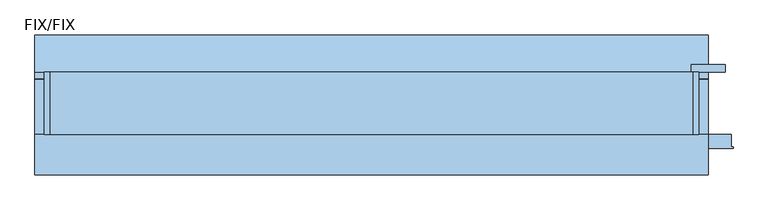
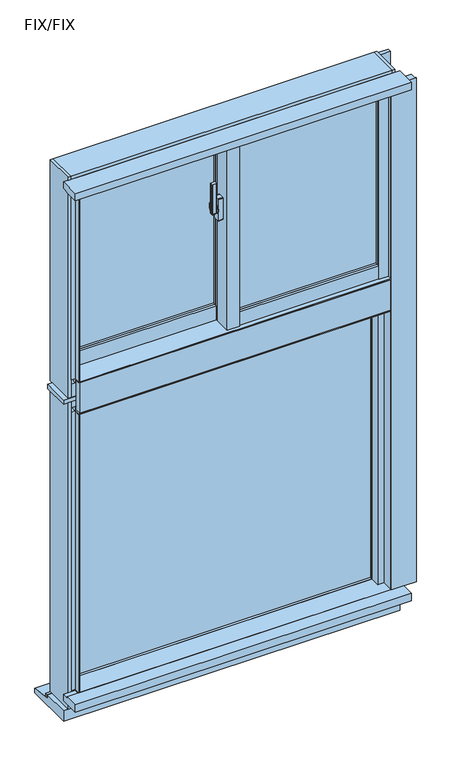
"""IFC4 building model written with IfcOpenShell, lengths in millimetres: window geometry, FNSⅡ100R_非防火_RC枠_段窓_分解無目 : FIX/FIX."""

import ifcopenshell
import ifcopenshell.guid

model = None  # the IFC model being written
_history = None  # IfcOwnerHistory: only IFC2X3 demands one
_inside = {}  # id of a spatial element -> (the spatial element, [elements in it])
_under = {}  # id of a project, library or spatial element -> (it, [spatial elements below it])
_declared = {}  # id of a project -> (the project, [libraries it declares])
_typed = {}  # id of a type object -> (the type object, [elements of that type])
_made_of = {}  # id of a material, layer set ... -> (it, [elements and type objects made of it])


def new_model(schema):
    """Start an empty IFC model of exactly this schema.

    Asked for "IFC4X3", IfcOpenShell would pick the latest addendum, in which some entities
    have other attributes; the version numbers below select the first issue.
    IFC2X3 requires an IfcOwnerHistory on every rooted entity: one is made here for all.
    """
    global model, _history
    if schema == "IFC4X3":
        model = ifcopenshell.file(schema_version=(4, 3, 0, 0))
    else:
        model = ifcopenshell.file(schema=schema)
    _inside.clear()
    _under.clear()
    _declared.clear()
    _typed.clear()
    _made_of.clear()
    _history = None
    if model.schema == "IFC2X3":
        org = make("IfcOrganization", Name="unknown")
        user = make(
            "IfcPersonAndOrganization",
            ThePerson=make("IfcPerson", FamilyName="unknown"),
            TheOrganization=org,
        )
        app = make(
            "IfcApplication",
            ApplicationDeveloper=org,
            Version="unknown",
            ApplicationFullName="unknown",
            ApplicationIdentifier="unknown",
        )
        _history = make(
            "IfcOwnerHistory",
            OwningUser=user,
            OwningApplication=app,
            ChangeAction="ADDED",
            CreationDate=0,
        )
    return model


def make(cls, **values):
    """One entity of the class cls with the attributes given. An attribute that is None is left unset."""
    return model.create_entity(
        cls, **{name: value for name, value in values.items() if value is not None}
    )


def rooted(cls, **values):
    """An entity with a GlobalId (a new one), such as an element, a storey or a relation."""
    return make(cls, GlobalId=ifcopenshell.guid.new(), OwnerHistory=_history, **values)


def si_unit(unit_type, name, prefix=None):
    """IfcSIUnit, for example si_unit("LENGTHUNIT", "METRE", prefix="MILLI")."""
    return make("IfcSIUnit", UnitType=unit_type, Prefix=prefix, Name=name)


def assignment(units):
    """IfcUnitAssignment: the units of a project."""
    return None if units is None else make("IfcUnitAssignment", Units=units)


def point(xyz):
    """IfcCartesianPoint."""
    return None if xyz is None else make("IfcCartesianPoint", Coordinates=xyz)


def direction(xyz):
    """IfcDirection."""
    return None if xyz is None else make("IfcDirection", DirectionRatios=xyz)


def frame(location, z_axis=None, x_axis=None):
    """IfcAxis2Placement3D, a coordinate frame: its origin and axes. An axis left out is left unset."""
    return make(
        "IfcAxis2Placement3D",
        Location=point(location),
        Axis=direction(z_axis),
        RefDirection=direction(x_axis),
    )


def frame_2d(location, x_axis=None):
    """IfcAxis2Placement2D, a coordinate frame in the plane: its origin and x axis."""
    return make(
        "IfcAxis2Placement2D", Location=point(location), RefDirection=direction(x_axis)
    )


def origin():
    """The frame at (0, 0, 0) with its axes left unset."""
    return frame((0.0, 0.0, 0.0))


def place(relative_to, where):
    """IfcLocalPlacement: puts the frame where relative to a parent placement (None: the world)."""
    return make(
        "IfcLocalPlacement", PlacementRelTo=relative_to, RelativePlacement=where
    )


def context(
    kind, dimensions, precision=None, world=None, true_north=None, identifier=None
):
    """IfcGeometricRepresentationContext, for example the 3D "Model" context."""
    return make(
        "IfcGeometricRepresentationContext",
        ContextIdentifier=identifier,
        ContextType=kind,
        CoordinateSpaceDimension=dimensions,
        Precision=precision,
        WorldCoordinateSystem=world,
        TrueNorth=true_north,
    )


def project(units=None, contexts=None):
    """IfcProject with its units and contexts."""
    return rooted(
        "IfcProject",
        Name="project",
        RepresentationContexts=contexts,
        UnitsInContext=assignment(units),
    )


def spatial(cls, under=None, at=None, **own):
    """A site, building, storey or space (cls), placed at a placement, below another one or the project."""
    s = rooted(cls, ObjectPlacement=at, **own)
    if under is not None:
        _under.setdefault(under.id(), (under, []))[1].append(s)
    return s


def polyline(points):
    """IfcPolyline through the points."""
    return make("IfcPolyline", Points=[point(p) for p in points])


def circle_curve(where, radius):
    """IfcCircle in the frame where."""
    return make("IfcCircle", Position=where, Radius=radius)


def trimmed(basis, trim1, trim2, sense, master):
    """IfcTrimmedCurve: the piece of a basis curve between two trims."""
    return make(
        "IfcTrimmedCurve",
        BasisCurve=basis,
        Trim1=trim1,
        Trim2=trim2,
        SenseAgreement=sense,
        MasterRepresentation=master,
    )


def segment(curve, same_sense, transition):
    """IfcCompositeCurveSegment."""
    return make(
        "IfcCompositeCurveSegment",
        Transition=transition,
        SameSense=same_sense,
        ParentCurve=curve,
    )


def composite_curve(segments, self_intersect=None):
    """IfcCompositeCurve: segments joined end to end."""
    return make("IfcCompositeCurve", Segments=segments, SelfIntersect=self_intersect)


def outline(outer, holes=None, kind="AREA"):
    """IfcArbitraryClosedProfileDef: a profile drawn as a closed curve; with holes, ...WithVoids."""
    if holes is None:
        return make("IfcArbitraryClosedProfileDef", ProfileType=kind, OuterCurve=outer)
    return make(
        "IfcArbitraryProfileDefWithVoids",
        ProfileType=kind,
        OuterCurve=outer,
        InnerCurves=holes,
    )


def extrude(swept, where, along, depth):
    """IfcExtrudedAreaSolid: the profile swept, set in the frame where, extruded along a direction by depth."""
    return make(
        "IfcExtrudedAreaSolid",
        SweptArea=swept,
        Position=where,
        ExtrudedDirection=direction(along),
        Depth=depth,
    )


def faces_of(points, faces, orient=None, outer=None):
    """IfcFace entities. A face is a list of loops; a loop is a list of indices into points, from 0.

    orient and outer hold one flag for each loop. By default every Orientation is true, the
    first loop of a face is its IfcFaceOuterBound and the others are IfcFaceBound.
    """
    made = []
    for i, loops in enumerate(faces):
        bounds = []
        for j, loop in enumerate(loops):
            is_outer = j == 0 if outer is None else outer[i][j]
            bounds.append(
                make(
                    "IfcFaceOuterBound" if is_outer else "IfcFaceBound",
                    Bound=make("IfcPolyLoop", Polygon=[points[k] for k in loop]),
                    Orientation=True if orient is None else orient[i][j],
                )
            )
        made.append(make("IfcFace", Bounds=bounds))
    return made


def faceted_brep(points, faces, orient=None, outer=None, voids=None):
    """IfcFacetedBrep: a solid bounded by flat faces; with voids (closed shells), ...WithVoids."""
    shared = [point(p) for p in points]
    hull = make("IfcClosedShell", CfsFaces=faces_of(shared, faces, orient, outer))
    if voids is None:
        return make("IfcFacetedBrep", Outer=hull)
    return make(
        "IfcFacetedBrepWithVoids",
        Outer=hull,
        Voids=[
            make(cls, CfsFaces=faces_of(shared, fs, o, b)) for cls, fs, o, b in voids
        ],
    )


def shape(context_of_items, identifier, shape_type, items):
    """IfcShapeRepresentation: the items that make up one representation, for example the "Body"."""
    return make(
        "IfcShapeRepresentation",
        ContextOfItems=context_of_items,
        RepresentationIdentifier=identifier,
        RepresentationType=shape_type,
        Items=items,
    )


def source(mapping_origin, context_of_items, identifier, shape_type, items):
    """IfcRepresentationMap: a shape defined once, which mapped items show again and again."""
    return make(
        "IfcRepresentationMap",
        MappingOrigin=mapping_origin,
        MappedRepresentation=shape(context_of_items, identifier, shape_type, items),
    )


def transform(
    local_origin,
    x_axis=None,
    y_axis=None,
    z_axis=None,
    scale=None,
    scale2=None,
    scale3=None,
    uniform=True,
):
    """IfcCartesianTransformationOperator3D, or its non-uniform kind. x_axis, y_axis, z_axis: its Axis1, 2, 3."""
    if uniform:
        return make(
            "IfcCartesianTransformationOperator3D",
            Axis1=direction(x_axis),
            Axis2=direction(y_axis),
            LocalOrigin=point(local_origin),
            Scale=scale,
            Axis3=direction(z_axis),
        )
    return make(
        "IfcCartesianTransformationOperator3DnonUniform",
        Axis1=direction(x_axis),
        Axis2=direction(y_axis),
        LocalOrigin=point(local_origin),
        Scale=scale,
        Axis3=direction(z_axis),
        Scale2=scale2,
        Scale3=scale3,
    )


def mapped(mapping_source, mapping_target):
    """IfcMappedItem: shows the shape of a source again, moved by a transform."""
    return make(
        "IfcMappedItem", MappingSource=mapping_source, MappingTarget=mapping_target
    )


def made_of(thing, what):
    """Note that an element or type object is made of a material, layer set ...; save() writes the relation."""
    if what is not None:
        _made_of.setdefault(what.id(), (what, []))[1].append(thing)
    return thing


def element(
    cls,
    number,
    at=None,
    inside=None,
    cuts=None,
    type_object=None,
    material=None,
    context=None,
    identifier="Body",
    shape_type=None,
    held_by="IfcProductDefinitionShape",
    body=None,
    shapes=None,
    **own,
):
    """One element of the class cls, such as IfcWall. Its Tag is "e" and its number.

    at: its placement. inside: the storey or other place that contains it. cuts: it is an
    opening in that element (IfcRelVoidsElement). A single representation is given by context,
    identifier, shape_type and body (its items); several are given by shapes. held_by: the class
    of the entity that holds the representations. save() writes the other relations.
    """
    e = rooted(cls, Tag="e%d" % number, ObjectPlacement=at, **own)
    if body is not None:
        shapes = [shape(context, identifier, shape_type, body)]
    if shapes is not None:
        e.Representation = make(held_by, Representations=shapes)
    if inside is not None:
        _inside.setdefault(inside.id(), (inside, []))[1].append(e)
    if cuts is not None:
        rooted(
            "IfcRelVoidsElement", RelatingBuildingElement=cuts, RelatedOpeningElement=e
        )
    if type_object is not None:
        _typed.setdefault(type_object.id(), (type_object, []))[1].append(e)
    return made_of(e, material)


def aggregate(whole, parts):
    """IfcRelAggregates: a whole, such as a stair, and the parts it consists of."""
    return rooted("IfcRelAggregates", RelatingObject=whole, RelatedObjects=parts)


def save(model, path):
    """Write the relations noted so far, then the file.

    IfcRelAggregates (storeys below a building ...), IfcRelContainedInSpatialStructure (elements
    in a storey), IfcRelDefinesByType, IfcRelAssociatesMaterial and IfcRelDeclares: one each for
    every whole, place, type object, material and project.
    """
    for whole, parts in _under.values():
        aggregate(whole, parts)
    for where, things in _inside.values():
        rooted(
            "IfcRelContainedInSpatialStructure",
            RelatedElements=things,
            RelatingStructure=where,
        )
    for kind, things in _typed.values():
        rooted("IfcRelDefinesByType", RelatedObjects=things, RelatingType=kind)
    for what, things in _made_of.values():
        rooted("IfcRelAssociatesMaterial", RelatedObjects=things, RelatingMaterial=what)
    for by, libraries in _declared.values():
        rooted("IfcRelDeclares", RelatingContext=by, RelatedDefinitions=libraries)
    model.write(path)


def plane_surface(at):
    """IfcPlane: the flat surface through the origin of the frame at, square to its z axis."""
    return make("IfcPlane", Position=at)


def cylinder_surface(at, radius):
    """IfcCylindricalSurface: all points at the distance radius from the z axis of the frame at."""
    return make("IfcCylindricalSurface", Position=at, Radius=radius)


def revolved_surface(curve, axis_point, axis_direction):
    """IfcSurfaceOfRevolution: the curve turned about the line through axis_point along axis_direction."""
    return make(
        "IfcSurfaceOfRevolution",
        SweptCurve=make("IfcArbitraryOpenProfileDef", ProfileType="CURVE", Curve=curve),
        AxisPosition=make("IfcAxis1Placement", Location=point(axis_point), Axis=direction(axis_direction)),
    )


def advanced_brep(points, edges, surfaces, faces):
    """IfcAdvancedBrep: a solid bounded by faces that lie on surfaces and meet in shared edges.

    An edge is (start, end): straight between two places in points (the first is 0);
    or (start, end, curve); or (start, end, curve, False) where it runs against its curve.
    A face is (place in surfaces, loops), or (place, loops, False) where it looks against
    its surface's normal. A loop lists edges by number (the first is 1), with a minus sign
    where the edge is run from its end to its start. The first loop is the outer one.
    """
    corners = [point(p) for p in points]
    vertices = [make("IfcVertexPoint", VertexGeometry=c) for c in corners]
    made = []
    for start, end, *more in edges:
        made.append(
            make(
                "IfcEdgeCurve",
                EdgeStart=vertices[start],
                EdgeEnd=vertices[end],
                EdgeGeometry=more[0] if more else make("IfcPolyline", Points=[corners[start], corners[end]]),
                SameSense=more[1] if len(more) > 1 else True,
            )
        )
    hull = []
    for where, loops, *sense in faces:
        bounds = []
        for j, loop in enumerate(loops):
            ring = [make("IfcOrientedEdge", EdgeElement=made[abs(k) - 1], Orientation=k > 0) for k in loop]
            bounds.append(
                make(
                    "IfcFaceOuterBound" if j == 0 else "IfcFaceBound",
                    Bound=make("IfcEdgeLoop", EdgeList=ring),
                    Orientation=True,
                )
            )
        hull.append(make("IfcAdvancedFace", Bounds=bounds, FaceSurface=surfaces[where], SameSense=sense[0] if sense else True))
    return make("IfcAdvancedBrep", Outer=make("IfcClosedShell", CfsFaces=hull))


def fix_fix_8fd30978(model_context):
    return source(origin(), model_context, "Body", "SolidModel", [
        extrude(outline(composite_curve([segment(polyline([(-39.0, -20.4), (-39.0, -28.6)]), True, "CONTINUOUS"), segment(trimmed(circle_curve(frame_2d((-41.0, -28.6)), 2.0), [point((-39.0, -28.6))], [point((-41.3606557, -30.5672131))], False, "CARTESIAN"), True, "CONTINUOUS"), segment(polyline([(-41.3606557, -30.5672131), (-52.3606557, -28.5505464)]), True, "CONTINUOUS"), segment(trimmed(circle_curve(frame_2d((-52.0, -26.5833333)), 2.0), [point((-52.3606557, -28.5505464))], [point((-54.0, -26.5833333))], False, "CARTESIAN"), True, "CONTINUOUS"), segment(polyline([(-54.0, -26.5833333), (-54.0, -22.4166667)]), True, "CONTINUOUS"), segment(trimmed(circle_curve(frame_2d((-52.0, -22.4166667)), 2.0), [point((-54.0, -22.4166667))], [point((-52.3606557, -20.4494536))], False, "CARTESIAN"), True, "CONTINUOUS"), segment(polyline([(-52.3606557, -20.4494536), (-41.3606557, -18.4327869)]), True, "CONTINUOUS"), segment(trimmed(circle_curve(frame_2d((-41.0, -20.4)), 2.0), [point((-41.3606557, -18.4327869))], [point((-39.0, -20.4))], False, "CARTESIAN"), True, "CONTINUOUS")], self_intersect=False)), frame((0.0, 0.0, 2345.0), z_axis=(0.0, 0.0, 1.0), x_axis=(1.0, 0.0, 0.0)), (0.0, 0.0, 1.0), 100.0),
        advanced_brep(
        [(-37.5, -16.1765715, 2376.7333311), (-45.5, -16.1765715, 2376.7333311), (-45.5, -16.5648001, 2375.2844424), (-39.0, -16.5648001, 2375.2844424), (-39.0, -18.3765334, 2368.5229616), (-37.5, -18.3765334, 2368.5229616), (-39.0, -18.3533883, 2334.3190372), (-45.5, -18.3533883, 2334.3190372), (-45.5, -18.092916, 2332.8418256), (-37.5, -18.092916, 2332.8418256), (-37.5, -19.5689255, 2341.2126915), (-39.0, -19.5689255, 2341.2126915)],
        [
            (0, 1),
            (1, 2),
            (2, 3),
            (3, 4),
            (4, 5),
            (5, 0),
            (6, 7),
            (7, 8),
            (8, 9),
            (9, 10),
            (10, 11),
            (11, 6),
            (0, 9, circle_curve(frame((-37.5, -22.0, 2355.0), z_axis=(-1.0, 0.0, 0.0), x_axis=(0.0, 0.25881904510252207, 0.965925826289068)), 22.5)),
            (8, 1, circle_curve(frame((-45.5, -22.0, 2355.0), z_axis=(1.0, 0.0, 0.0), x_axis=(0.0, 0.25881904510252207, 0.965925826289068)), 22.5)),
            (7, 2, circle_curve(frame((-45.5, -22.0, 2355.0), z_axis=(1.0, 0.0, 0.0), x_axis=(0.0, 0.25881904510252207, 0.965925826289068)), 21.0)),
            (6, 3, circle_curve(frame((-39.0, -22.0, 2355.0), z_axis=(1.0, 0.0, 0.0), x_axis=(0.0, 0.25881904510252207, 0.965925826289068)), 21.0)),
            (11, 4, circle_curve(frame((-39.0, -22.0, 2355.0), z_axis=(-1.0, 0.0, 0.0), x_axis=(0.0, -1.0, 0.0)), 14.0)),
            (5, 10, circle_curve(frame((-37.5, -22.0, 2355.0), z_axis=(1.0, 0.0, 0.0), x_axis=(0.0, -1.0, 0.0)), 14.0)),
        ],
        [
            plane_surface(frame((-43.5470497, -22.0, 2355.0), z_axis=(0.0, -0.965925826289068, 0.25881904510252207), x_axis=(0.0, 0.25881904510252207, 0.965925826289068))),
            plane_surface(frame((-43.5470497, -22.0, 2355.0), z_axis=(0.0, -0.9848077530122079, -0.17364817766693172), x_axis=(0.0, 0.17364817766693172, -0.9848077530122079))),
            cylinder_surface(frame((-43.5470497, -22.0, 2355.0), z_axis=(-1.0, 0.0, 0.0), x_axis=(0.0, 0.25881904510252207, 0.965925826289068)), 22.5),
            plane_surface(frame((-45.5, -22.0, 2355.0), z_axis=(-1.0, 0.0, 0.0), x_axis=(0.0, 0.25881904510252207, 0.965925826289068))),
            revolved_surface(polyline([(-45.5, -16.564800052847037, 2375.2844423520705), (-39.0, -16.564800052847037, 2375.2844423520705)]), (-43.5470497, -22.0, 2355.0), (-1.0, 0.0, 0.0)),
            plane_surface(frame((-39.0, -22.0, 2355.0), z_axis=(-1.0, 0.0, 0.0), x_axis=(0.0, 0.25881904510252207, 0.965925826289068))),
            plane_surface(frame((-37.5, -22.0, 2355.0), z_axis=(1.0, 0.0, 0.0), x_axis=(0.0, 0.25881904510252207, 0.965925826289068))),
            cylinder_surface(frame((-37.5, -22.0, 2355.0), z_axis=(-1.0, 0.0, 0.0), x_axis=(0.0, -1.0, 0.0)), 14.0),
        ],
        [
            (0, [[1, 2, 3, 4, 5, 6]]),
            (1, [[7, 8, 9, 10, 11, 12]]),
            (2, [[-1, 13, -9, 14]]),
            (3, [[-2, -14, -8, 15]]),
            (4, [[-3, -15, -7, 16]]),
            (5, [[-16, -12, 17, -4]]),
            (6, [[-13, -6, 18, -10]]),
            (7, [[-17, -11, -18, -5]]),
        ],
    ),
        extrude(outline(composite_curve([segment(trimmed(circle_curve(frame_2d((-22.0, 2355.0)), 11.5), [point((-10.5, 2355.0))], [point((-33.5, 2355.0))], False, "CARTESIAN"), True, "CONTINUOUS"), segment(trimmed(circle_curve(frame_2d((-22.0, 2355.0)), 11.5), [point((-33.5, 2355.0))], [point((-10.5, 2355.0))], False, "CARTESIAN"), True, "CONTINUOUS")], self_intersect=False)), frame((-37.5, 0.0, 0.0), z_axis=(1.0, 0.0, 0.0), x_axis=(0.0, 1.0, 0.0)), (0.0, 0.0, 1.0), 2.5),
        extrude(outline(composite_curve([segment(polyline([(-31.0, 2392.5), (-13.0, 2392.5)]), True, "CONTINUOUS"), segment(trimmed(circle_curve(frame_2d((-13.0, 2390.5)), 2.0), [point((-13.0, 2392.5))], [point((-11.0, 2390.5))], False, "CARTESIAN"), True, "CONTINUOUS"), segment(polyline([(-11.0, 2390.5), (-11.0, 2319.5)]), True, "CONTINUOUS"), segment(trimmed(circle_curve(frame_2d((-13.0, 2319.5)), 2.0), [point((-11.0, 2319.5))], [point((-13.0, 2317.5))], False, "CARTESIAN"), True, "CONTINUOUS"), segment(polyline([(-13.0, 2317.5), (-31.0, 2317.5)]), True, "CONTINUOUS"), segment(trimmed(circle_curve(frame_2d((-31.0, 2319.5)), 2.0), [point((-31.0, 2317.5))], [point((-33.0, 2319.5))], False, "CARTESIAN"), True, "CONTINUOUS"), segment(polyline([(-33.0, 2319.5), (-33.0, 2390.5)]), True, "CONTINUOUS"), segment(trimmed(circle_curve(frame_2d((-31.0, 2390.5)), 2.0), [point((-33.0, 2390.5))], [point((-31.0, 2392.5))], False, "CARTESIAN"), True, "CONTINUOUS")], self_intersect=False)), frame((-35.0, 0.0, 0.0), z_axis=(1.0, 0.0, 0.0), x_axis=(0.0, 1.0, 0.0)), (0.0, 0.0, 1.0), 15.0),
        extrude(outline(polyline([(20.0, -31.0), (468.0, -31.0), (468.0, -37.0), (20.0, -37.0), (20.0, -31.0)])), frame((0.0, 0.0, 2003.0), z_axis=(0.0, 0.0, 1.0), x_axis=(1.0, 0.0, 0.0)), (0.0, 0.0, 1.0), 567.0),
        extrude(outline(polyline([(20.0, -13.0), (468.0, -13.0), (468.0, -19.0), (20.0, -19.0), (20.0, -13.0)])), frame((0.0, 0.0, 2003.0), z_axis=(0.0, 0.0, 1.0), x_axis=(1.0, 0.0, 0.0)), (0.0, 0.0, 1.0), 567.0),
        extrude(outline(polyline([(-468.0, 27.0), (-20.0, 27.0), (-20.0, 21.0), (-468.0, 21.0), (-468.0, 27.0)])), frame((0.0, 0.0, 2003.0), z_axis=(0.0, 0.0, 1.0), x_axis=(1.0, 0.0, 0.0)), (0.0, 0.0, 1.0), 567.0),
        extrude(outline(polyline([(-468.0, 45.0), (-20.0, 45.0), (-20.0, 39.0), (-468.0, 39.0), (-468.0, 45.0)])), frame((0.0, 0.0, 2003.0), z_axis=(0.0, 0.0, 1.0), x_axis=(1.0, 0.0, 0.0)), (0.0, 0.0, 1.0), 567.0),
        faceted_brep([(-500.0, 24.0, 2610.0), (-489.5, 24.0, 2610.0), (-489.5, 11.0, 2610.0), (-468.0, 11.0, 2610.0), (-468.0, 53.0, 2610.0), (-500.0, 53.0, 2610.0), (-468.0, 24.0, 1915.0), (-500.0, 24.0, 1915.0), (-500.0, 53.0, 1915.0), (-468.0, 53.0, 1915.0), (-468.0, 24.0, 1955.0), (-489.5, 24.0, 1955.0), (-489.5, 11.0, 1955.0), (-468.0, 11.0, 1955.0)], [[[0, 1, 2, 3, 4, 5]], [[6, 7, 8, 9]], [[1, 0, 7, 6, 10, 11]], [[2, 1, 11, 12]], [[3, 2, 12, 13]], [[4, 3, 13, 10, 6, 9]], [[5, 4, 9, 8]], [[7, 0, 5, 8]], [[11, 10, 13, 12]]]),
        faceted_brep([(-20.0, 10.5, 2610.0), (-1.8, 10.5, 2610.0), (-1.8, -1.9, 2610.0), (20.0, -1.9, 2610.0), (20.0, 53.0, 2610.0), (-20.0, 53.0, 2610.0), (-20.0, 53.0, 1915.0), (20.0, 53.0, 1915.0), (20.0, 24.0, 1915.0), (-20.0, 24.0, 1915.0), (-20.0, 10.5, 1955.0), (-1.8, 10.5, 1955.0), (-1.8, -1.9, 1955.0), (20.0, -1.9, 1955.0), (20.0, 24.0, 1955.0), (-20.0, 24.0, 1955.0)], [[[0, 1, 2, 3, 4, 5]], [[6, 7, 8, 9]], [[1, 0, 10, 11]], [[2, 1, 11, 12]], [[3, 2, 12, 13]], [[4, 3, 13, 14, 8, 7]], [[5, 4, 7, 6]], [[0, 5, 6, 9, 15, 10]], [[14, 15, 9, 8]], [[15, 14, 13, 12, 11, 10]]]),
        extrude(outline(polyline([(-20.0, -1.9), (-15.0, -1.9), (-15.0, -47.0), (15.0, -47.0), (15.0, -43.0), (20.0, -43.0), (20.0, -55.0), (-20.0, -55.0), (-20.0, -1.9)])), frame((0.0, 0.0, 1955.0), z_axis=(0.0, 0.0, 1.0), x_axis=(1.0, 0.0, 0.0)), (0.0, 0.0, 1.0), 655.0),
        extrude(outline(polyline([(-15.0, -1.9), (20.0, -1.9), (20.0, -43.0), (15.0, -43.0), (15.0, -47.0), (-15.0, -47.0), (-15.0, -1.9)])), frame((0.0, 0.0, 1955.0), z_axis=(0.0, 0.0, 1.0), x_axis=(1.0, 0.0, 0.0)), (0.0, 0.0, 1.0), 655.0),
        extrude(outline(polyline([(468.0, -55.0), (468.0, -47.0), (489.5, -47.0), (489.5, -34.0), (497.0, -34.0), (497.0, -55.0), (468.0, -55.0)])), frame((0.0, 0.0, 1958.0), z_axis=(0.0, 0.0, 1.0), x_axis=(1.0, 0.0, 0.0)), (0.0, 0.0, 1.0), 652.0),
        extrude(outline(polyline([(468.0, -5.0), (500.0, -5.0), (500.0, -34.0), (489.5, -34.0), (489.5, -47.0), (468.0, -47.0), (468.0, -5.0)])), frame((0.0, 0.0, 1955.0), z_axis=(0.0, 0.0, 1.0), x_axis=(1.0, 0.0, 0.0)), (0.0, 0.0, 1.0), 655.0),
        extrude(outline(polyline([(-1.85, 10.5), (-1.85, 3.0), (-20.0, 3.0), (-20.0, 10.5), (-1.85, 10.5)])), frame((0.0, 0.0, 1955.0), z_axis=(0.0, 0.0, 1.0), x_axis=(1.0, 0.0, 0.0)), (0.0, 0.0, 1.0), 655.0),
        extrude(outline(polyline([(-497.0, 24.0), (-489.5, 24.0), (-489.5, 11.0), (-468.0, 11.0), (-468.0, 3.0), (-497.0, 3.0), (-497.0, 24.0)])), frame((0.0, 0.0, 1955.0), z_axis=(0.0, 0.0, 1.0), x_axis=(1.0, 0.0, 0.0)), (0.0, 0.0, 1.0), 655.0),
        extrude(outline(polyline([(-53.0, 1958.0), (-53.0, 2003.0), (-45.0, 2003.0), (-45.0, 1980.5), (-34.0, 1980.5), (-34.0, 1958.0), (-53.0, 1958.0)])), frame((20.0, 0.0, 0.0), z_axis=(1.0, 0.0, 0.0), x_axis=(0.0, 1.0, 0.0)), (0.0, 0.0, 1.0), 448.0),
        extrude(outline(polyline([(-5.0, 1955.0), (-34.0, 1955.0), (-34.0, 1980.5), (-45.0, 1980.5), (-45.0, 2003.0), (-5.0, 2003.0), (-5.0, 1955.0)])), frame((20.0, 0.0, 0.0), z_axis=(1.0, 0.0, 0.0), x_axis=(0.0, 1.0, 0.0)), (0.0, 0.0, 1.0), 448.0),
        extrude(outline(polyline([(5.0, 2003.0), (13.0, 2003.0), (13.0, 1980.5), (24.0, 1980.5), (24.0, 1955.0), (5.0, 1955.0), (5.0, 2003.0)])), frame((-468.0, 0.0, 0.0), z_axis=(1.0, 0.0, 0.0), x_axis=(0.0, 1.0, 0.0)), (0.0, 0.0, 1.0), 448.0),
        extrude(outline(polyline([(53.0, 1915.0), (24.0, 1915.0), (24.0, 1980.5), (13.0, 1980.5), (13.0, 2003.0), (53.0, 2003.0), (53.0, 1915.0)])), frame((-468.0, 0.0, 0.0), z_axis=(1.0, 0.0, 0.0), x_axis=(0.0, 1.0, 0.0)), (0.0, 0.0, 1.0), 448.0),
        extrude(outline(polyline([(-32.0, 2590.5), (-45.0, 2590.5), (-45.0, 2570.0), (-53.0, 2570.0), (-53.0, 2610.0), (-32.0, 2610.0), (-32.0, 2590.5)])), frame((20.0, 0.0, 0.0), z_axis=(1.0, 0.0, 0.0), x_axis=(0.0, 1.0, 0.0)), (0.0, 0.0, 1.0), 448.0),
        extrude(outline(polyline([(-5.0, 2610.0), (-5.0, 2570.0), (-45.0, 2570.0), (-45.0, 2590.5), (-32.0, 2590.5), (-32.0, 2610.0), (-5.0, 2610.0)])), frame((20.0, 0.0, 0.0), z_axis=(1.0, 0.0, 0.0), x_axis=(0.0, 1.0, 0.0)), (0.0, 0.0, 1.0), 448.0),
        extrude(outline(polyline([(26.0, 2590.5), (13.0, 2590.5), (13.0, 2570.0), (5.0, 2570.0), (5.0, 2610.0), (26.0, 2610.0), (26.0, 2590.5)])), frame((-468.0, 0.0, 0.0), z_axis=(1.0, 0.0, 0.0), x_axis=(0.0, 1.0, 0.0)), (0.0, 0.0, 1.0), 448.0),
        extrude(outline(polyline([(53.0, 2610.0), (53.0, 2570.0), (13.0, 2570.0), (13.0, 2590.5), (26.0, 2590.5), (26.0, 2610.0), (53.0, 2610.0)])), frame((-468.0, 0.0, 0.0), z_axis=(1.0, 0.0, 0.0), x_axis=(0.0, 1.0, 0.0)), (0.0, 0.0, 1.0), 448.0),
        extrude(outline(polyline([(-15.0, 25.3), (-15.0, -23.1), (-500.0, -23.1), (-500.0, 25.3), (-15.0, 25.3)])), frame((0.0, 0.0, 2610.0), z_axis=(0.0, 0.0, 1.0), x_axis=(1.0, 0.0, 0.0)), (0.0, 0.0, 1.0), 25.0),
        faceted_brep([(515.0, 25.3, 2635.0), (515.0, -45.0, 2635.0), (-515.0, -45.0, 2635.0), (-515.0, 25.3, 2635.0), (-15.0, 25.3, 2635.0), (-15.0, -23.1, 2635.0), (500.0, -23.1, 2635.0), (500.0, 25.3, 2635.0), (515.0, 25.3, 2610.0), (500.0, 25.3, 2610.0), (-515.0, 25.3, 2610.0), (-15.0, 25.3, 2610.0), (515.0, 55.0, 2610.0), (500.0, -23.1, 2610.0), (-15.0, -23.1, 2610.0), (-515.0, 55.0, 2610.0), (515.0, 55.0, 2645.0), (-515.0, 55.0, 2645.0), (515.0, -45.0, 2645.0), (-515.0, -45.0, 2645.0)], [[[0, 1, 2, 3, 4, 5, 6, 7]], [[8, 0, 7, 9]], [[3, 10, 11, 4]], [[12, 8, 9, 13, 14, 11, 10, 15]], [[16, 12, 15, 17]], [[18, 16, 17, 19]], [[1, 18, 19, 2]], [[12, 16, 18, 1, 0, 8]], [[15, 10, 3, 2, 19, 17]], [[6, 13, 9, 7]], [[11, 14, 5, 4]], [[13, 6, 5, 14]]]),
        extrude(outline(polyline([(-23.1, 2610.0), (-65.0, 2610.0), (-65.0, 2613.0), (-45.0, 2613.0), (-45.0, 2635.0), (-23.1, 2635.0), (-23.1, 2610.0)])), frame((-500.0, 0.0, 0.0), z_axis=(1.0, 0.0, 0.0), x_axis=(0.0, 1.0, 0.0)), (0.0, 0.0, 1.0), 1000.0),
        faceted_brep([(500.0, -45.0, 2630.0), (515.0, -45.0, 2630.0), (515.0, -40.5, 2630.0), (500.0, -40.5, 2630.0), (500.0, -65.0, 1955.0), (500.0, -40.5, 1955.0), (515.0, -40.5, 1955.0), (515.0, -45.0, 1955.0), (503.0, -45.0, 1955.0), (503.0, -65.0, 1955.0), (503.0, -65.0, 2613.0), (500.0, -65.0, 2613.0), (503.0, -45.0, 2613.0), (500.0, -45.0, 2613.0)], [[[0, 1, 2, 3]], [[4, 5, 6, 7, 8, 9]], [[4, 9, 10, 11]], [[9, 8, 12, 10]], [[0, 13, 12, 8, 7, 1]], [[2, 1, 7, 6]], [[3, 2, 6, 5]], [[5, 4, 11, 13, 0, 3]], [[12, 13, 11, 10]]]),
        faceted_brep([(-515.0, -45.0, 2630.0), (-500.0, -45.0, 2630.0), (-500.0, 21.0, 2630.0), (-515.0, 21.0, 2630.0), (-515.0, -45.0, 1955.0), (-515.0, 21.0, 1955.0), (-500.0, 21.0, 1955.0), (-500.0, -65.0, 1955.0), (-503.0, -65.0, 1955.0), (-503.0, -45.0, 1955.0), (-503.0, -45.0, 2613.0), (-500.0, -45.0, 2613.0), (-503.0, -65.0, 2613.0), (-500.0, -65.0, 2613.0)], [[[0, 1, 2, 3]], [[4, 5, 6, 7, 8, 9]], [[4, 9, 10, 11, 1, 0]], [[9, 8, 12, 10]], [[8, 7, 13, 12]], [[7, 6, 2, 1, 11, 13]], [[3, 2, 6, 5]], [[4, 0, 3, 5]], [[11, 10, 12, 13]]]),
        faceted_brep([(-525.0, 55.0, 2645.0), (-525.0, -45.0, 2645.0), (-515.0, -45.0, 2645.0), (-515.0, 55.0, 2645.0), (-525.0, 55.0, 1895.0), (-515.0, 55.0, 1895.0), (-515.0, -45.0, 1895.0), (-525.0, -45.0, 1895.0), (-515.0, 55.0, 1904.0), (-515.0, 21.0, 1904.0), (-515.0, 21.0, 2610.0), (-515.0, 55.0, 2610.0), (-500.0, 55.0, 2610.0), (-500.0, 55.0, 1904.0), (-500.0, 21.0, 2610.0), (-500.0, 21.0, 1904.0)], [[[0, 1, 2, 3]], [[4, 5, 6, 7]], [[1, 0, 4, 7]], [[2, 1, 7, 6]], [[3, 2, 6, 5, 8, 9, 10, 11]], [[0, 3, 11, 12, 13, 8, 5, 4]], [[12, 11, 10, 14]], [[13, 15, 9, 8]], [[14, 10, 9, 15]], [[12, 14, 15, 13]]]),
        faceted_brep([(515.0, -45.0, 2645.0), (525.0, -45.0, 2645.0), (525.0, 55.0, 2645.0), (515.0, 55.0, 2645.0), (515.0, -45.0, 1895.0), (515.0, 55.0, 1895.0), (525.0, 55.0, 1895.0), (525.0, -45.0, 1895.0), (515.0, -40.5, 2610.0), (500.0, -40.5, 2610.0), (500.0, -40.5, 1904.0), (515.0, -40.5, 1904.0), (500.0, 55.0, 2610.0), (500.0, 55.0, 1904.0), (515.0, 55.0, 2610.0), (515.0, 55.0, 1904.0)], [[[0, 1, 2, 3]], [[4, 5, 6, 7]], [[8, 9, 10, 11]], [[9, 12, 13, 10]], [[9, 8, 14, 12]], [[10, 13, 15, 11]], [[1, 0, 4, 7]], [[2, 1, 7, 6]], [[3, 2, 6, 5, 15, 13, 12, 14]], [[0, 3, 14, 8, 11, 15, 5, 4]]]),
        faceted_brep([(515.0, -45.0, 1939.0), (515.0, 21.0, 1939.0), (-515.0, 21.0, 1939.0), (-515.0, -45.0, 1939.0), (500.0, -17.75, 1939.0), (500.0, -36.2, 1939.0), (-15.0, -36.2, 1939.0), (-15.0, -17.75, 1939.0), (515.0, 21.0, 1904.0), (-515.0, 21.0, 1904.0), (515.0, 55.0, 1904.0), (-515.0, 55.0, 1904.0), (515.0, 55.0, 1895.0), (515.0, -45.0, 1895.0), (-515.0, -45.0, 1895.0), (-515.0, 55.0, 1895.0), (500.0, -36.2, 1955.0), (500.0, -17.75, 1955.0), (-15.0, -36.2, 1955.0), (-15.0, -17.75, 1955.0)], [[[0, 1, 2, 3], [4, 5, 6, 7]], [[1, 8, 9, 2]], [[8, 10, 11, 9]], [[12, 13, 14, 15]], [[12, 10, 8, 1, 0, 13]], [[15, 14, 3, 2, 9, 11]], [[13, 0, 3, 14]], [[10, 12, 15, 11]], [[16, 5, 4, 17]], [[18, 19, 7, 6]], [[5, 16, 18, 6]], [[17, 4, 7, 19]], [[16, 17, 19, 18]]]),
        faceted_brep([(503.0, -65.0, 1955.0), (503.0, -65.0, 1952.0), (503.0, -45.0, 1952.0), (503.0, -45.0, 1939.0), (503.0, -40.5, 1939.0), (503.0, -40.5, 1955.0), (-503.0, -45.0, 1939.0), (-503.0, -45.0, 1952.0), (-503.0, -65.0, 1952.0), (-503.0, -65.0, 1955.0), (-503.0, -36.2, 1955.0), (-503.0, -36.2, 1939.0), (500.0, -40.5, 1955.0), (500.0, -36.2, 1955.0), (-15.0, -36.2, 1955.0), (-15.0, 21.0, 1955.0), (-500.0, 21.0, 1955.0), (-500.0, -36.2, 1955.0), (-500.0, -36.2, 1939.0), (500.0, -36.2, 1939.0), (-15.0, -36.2, 1939.0), (-500.0, 21.0, 1939.0), (-15.0, 21.0, 1939.0), (500.0, -40.5, 1939.0)], [[[0, 1, 2, 3, 4, 5]], [[6, 7, 8, 9, 10, 11]], [[3, 2, 7, 6]], [[2, 1, 8, 7]], [[1, 0, 9, 8]], [[10, 9, 0, 5, 12, 13, 14, 15, 16, 17]], [[11, 10, 17, 18]], [[13, 19, 20, 14]], [[6, 11, 18, 21, 22, 20, 19, 23, 4, 3]], [[12, 23, 19, 13]], [[23, 12, 5, 4]], [[15, 14, 20, 22]], [[16, 21, 18, 17]], [[15, 22, 21, 16]]]),
        extrude(outline(polyline([(-480.0, 20.6), (480.0, 20.6), (480.0, 14.6), (-480.0, 14.6), (-480.0, 20.6)])), frame((0.0, 0.0, 900.0), z_axis=(0.0, 0.0, 1.0), x_axis=(1.0, 0.0, 0.0)), (0.0, 0.0, 1.0), 925.0),
        extrude(outline(polyline([(-480.0, 38.6), (480.0, 38.6), (480.0, 32.6), (-480.0, 32.6), (-480.0, 38.6)])), frame((0.0, 0.0, 900.0), z_axis=(0.0, 0.0, 1.0), x_axis=(1.0, 0.0, 0.0)), (0.0, 0.0, 1.0), 925.0),
        faceted_brep([(-525.0, 55.0, 1880.0), (-525.0, -45.0, 1880.0), (-515.0, -45.0, 1880.0), (-515.0, 55.0, 1880.0), (-525.0, 55.0, 840.0), (-515.0, 55.0, 840.0), (-515.0, -45.0, 840.0), (-525.0, -45.0, 840.0), (-515.0, 55.0, 900.0), (-515.0, 5.0, 900.0), (-515.0, 5.0, 1825.0), (-515.0, 55.0, 1825.0), (-480.0, 55.0, 1825.0), (-480.0, 55.0, 900.0), (-480.0, 5.0, 1825.0), (-480.0, 5.0, 900.0)], [[[0, 1, 2, 3]], [[4, 5, 6, 7]], [[1, 0, 4, 7]], [[2, 1, 7, 6]], [[3, 2, 6, 5, 8, 9, 10, 11]], [[0, 3, 11, 12, 13, 8, 5, 4]], [[12, 11, 10, 14]], [[13, 15, 9, 8]], [[14, 10, 9, 15]], [[12, 14, 15, 13]]]),
        faceted_brep([(525.0, 55.0, 1880.0), (515.0, 55.0, 1880.0), (515.0, -45.0, 1880.0), (525.0, -45.0, 1880.0), (525.0, 55.0, 840.0), (525.0, -45.0, 840.0), (515.0, -45.0, 840.0), (515.0, 55.0, 840.0), (515.0, 55.0, 900.0), (480.0, 55.0, 900.0), (480.0, 55.0, 1825.0), (515.0, 55.0, 1825.0), (515.0, 5.0, 1825.0), (515.0, 5.0, 900.0), (480.0, 5.0, 1825.0), (480.0, 5.0, 900.0)], [[[0, 1, 2, 3]], [[4, 5, 6, 7]], [[1, 0, 4, 7, 8, 9, 10, 11]], [[2, 1, 11, 12, 13, 8, 7, 6]], [[3, 2, 6, 5]], [[0, 3, 5, 4]], [[11, 10, 14, 12]], [[13, 15, 9, 8]], [[14, 10, 9, 15]], [[12, 14, 15, 13]]]),
        extrude(outline(polyline([(500.0, -65.0), (500.0, -26.5), (480.0, -26.5), (480.0, 5.0), (515.0, 5.0), (515.0, -45.0), (503.0, -45.0), (503.0, -65.0), (500.0, -65.0)])), frame((0.0, 0.0, 900.0), z_axis=(0.0, 0.0, 1.0), x_axis=(1.0, 0.0, 0.0)), (0.0, 0.0, 1.0), 945.0),
        extrude(outline(polyline([(-515.0, -45.0), (-515.0, 5.0), (-480.0, 5.0), (-480.0, -26.5), (-500.0, -26.5), (-500.0, -65.0), (-503.0, -65.0), (-503.0, -45.0), (-515.0, -45.0)])), frame((0.0, 0.0, 900.0), z_axis=(0.0, 0.0, 1.0), x_axis=(1.0, 0.0, 0.0)), (0.0, 0.0, 1.0), 945.0),
        extrude(outline(polyline([(-45.0, 884.0), (-45.0, 897.0), (-65.0, 897.0), (-65.0, 900.0), (5.0, 900.0), (5.0, 884.0), (-45.0, 884.0)])), frame((-503.0, 0.0, 0.0), z_axis=(1.0, 0.0, 0.0), x_axis=(0.0, 1.0, 0.0)), (0.0, 0.0, 1.0), 1006.0),
        extrude(outline(polyline([(55.0, 840.0), (-45.0, 840.0), (-45.0, 884.0), (5.0, 884.0), (5.0, 900.0), (55.0, 900.0), (55.0, 870.0), (36.0, 870.0), (36.0, 850.0), (55.0, 850.0), (55.0, 840.0)])), frame((-515.0, 0.0, 0.0), z_axis=(1.0, 0.0, 0.0), x_axis=(0.0, 1.0, 0.0)), (0.0, 0.0, 1.0), 1030.0),
        extrude(outline(polyline([(5.0, 1822.0), (-29.0, 1822.0), (-29.0, 1845.0), (-65.0, 1845.0), (-65.0, 1848.0), (-45.0, 1848.0), (-45.0, 1860.0), (5.0, 1860.0), (5.0, 1822.0)])), frame((-503.0, 0.0, 0.0), z_axis=(1.0, 0.0, 0.0), x_axis=(0.0, 1.0, 0.0)), (0.0, 0.0, 1.0), 1006.0),
        extrude(outline(polyline([(55.0, 1825.0), (5.0, 1825.0), (5.0, 1860.0), (-45.0, 1860.0), (-45.0, 1880.0), (55.0, 1880.0), (55.0, 1825.0)])), frame((-515.0, 0.0, 0.0), z_axis=(1.0, 0.0, 0.0), x_axis=(0.0, 1.0, 0.0)), (0.0, 0.0, 1.0), 1030.0),
        extrude(outline(polyline([(-110.0, 900.0), (-65.0, 900.0), (-65.0, 897.0), (-45.0, 897.0), (-45.0, 875.0), (-110.0, 875.0), (-110.0, 900.0)])), frame((-540.0, 0.0, 0.0), z_axis=(1.0, 0.0, 0.0), x_axis=(0.0, 1.0, 0.0)), (0.0, 0.0, 1.0), 1080.0),
        extrude(outline(polyline([(45.0, 840.0), (55.0, 840.0), (55.0, 828.4285714), (45.0, 830.0), (45.0, 840.0)])), frame((-540.0, 0.0, 0.0), z_axis=(1.0, 0.0, 0.0), x_axis=(0.0, 1.0, 0.0)), (0.0, 0.0, 1.0), 1080.0),
        extrude(outline(polyline([(-45.0, 804.0), (-45.0, 840.0), (45.0, 840.0), (45.0, 830.0), (115.0, 819.0), (115.0, 804.0), (-45.0, 804.0)])), frame((-540.0, 0.0, 0.0), z_axis=(1.0, 0.0, 0.0), x_axis=(0.0, 1.0, 0.0)), (0.0, 0.0, 1.0), 1080.0),
        extrude(outline(polyline([(503.0, -65.0), (503.0, -45.0), (577.0, -45.0), (577.0, -65.0), (580.0, -65.0), (580.0, -67.5), (500.0, -67.5), (500.0, -65.0), (503.0, -65.0)])), frame((0.0, 0.0, 900.0), z_axis=(0.0, 0.0, 1.0), x_axis=(1.0, 0.0, 0.0)), (0.0, 0.0, 1.0), 1710.0),
        extrude(outline(polyline([(567.5, 55.0), (512.5, 55.0), (512.5, 67.0), (567.5, 67.0), (567.5, 55.0)])), frame((0.0, 0.0, 840.0), z_axis=(0.0, 0.0, 1.0), x_axis=(1.0, 0.0, 0.0)), (0.0, 0.0, 1.0), 1790.0),
        extrude(outline(polyline([(-110.0, 2635.0), (-45.0, 2635.0), (-45.0, 2613.0), (-65.0, 2613.0), (-65.0, 2610.0), (-110.0, 2610.0), (-110.0, 2635.0)])), frame((-540.0, 0.0, 0.0), z_axis=(1.0, 0.0, 0.0), x_axis=(0.0, 1.0, 0.0)), (0.0, 0.0, 1.0), 1080.0),
        extrude(outline(polyline([(-500.0, -65.0), (-500.0, -45.0), (500.0, -45.0), (500.0, -65.0), (-500.0, -65.0)])), frame((0.0, 0.0, 1848.0), z_axis=(0.0, 0.0, 1.0), x_axis=(1.0, 0.0, 0.0)), (0.0, 0.0, 1.0), 104.0),
        extrude(outline(polyline([(-540.0, -45.0), (-540.0, 43.0), (540.0, 43.0), (540.0, -45.0), (-540.0, -45.0)])), frame((0.0, 0.0, 1880.0), z_axis=(0.0, 0.0, 1.0), x_axis=(1.0, 0.0, 0.0)), (0.0, 0.0, 1.0), 15.0),
    ])


if __name__ == "__main__":
    model = new_model("IFC4")
    model_context = context("Model", 3, world=origin())
    ifc_project = project(units=[si_unit("LENGTHUNIT", "METRE", prefix="MILLI")], contexts=[model_context])
    site = spatial("IfcSite", under=ifc_project)
    building = spatial("IfcBuilding", under=site)
    placement = place(None, origin())
    fix_fix_shape = fix_fix_8fd30978(model_context)
    element("IfcWindow", 1, ObjectType="FNSⅡ100R_非防火_RC枠_段窓_分解無目 : FIX/FIX", at=placement, inside=building, context=model_context, shape_type="MappedRepresentation", body=[
        mapped(fix_fix_shape, transform((0.0, 0.0, 0.0), x_axis=(1.0, 0.0, 0.0), y_axis=(0.0, 1.0, 0.0), z_axis=(0.0, 0.0, 1.0))),
    ])
    save(model, "model.ifc")
